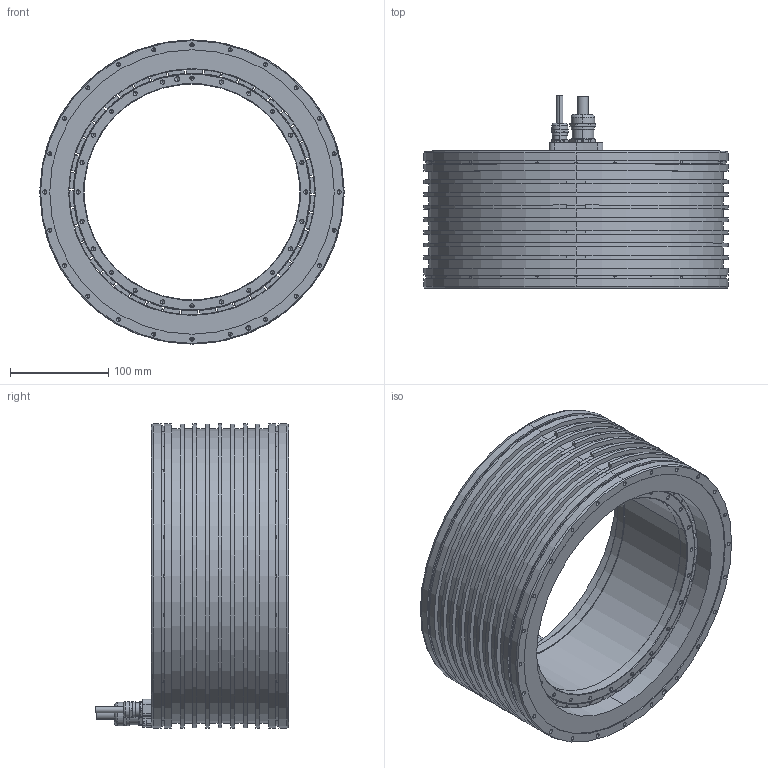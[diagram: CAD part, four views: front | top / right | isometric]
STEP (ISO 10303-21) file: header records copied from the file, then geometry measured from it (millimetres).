
FILE_DESCRIPTION (( 'STEP AP214' ), '1' );
FILE_NAME ('TORQUE KIT QMT LA 310-140-I-AX.STEP', '2025-09-04T13:29:29', ( '' ), ( '' ), 'SwSTEP 2.0', 'SolidWorks 2023', '' );
FILE_SCHEMA (( 'AUTOMOTIVE_DESIGN' ));
Length unit declared in the file: millimetre
Products named in the file (21): Cooling Ring; Housing; TORQUE KIT QMT LA 310-140-I-AX; Magnet; Screw; Cable Clamp; Resin; Cable Connection; Stator; Rotor_Glued; Cable Gland; Housing-BO; Rotor; Rotor ring; Cable
Assembly tree (103 placements, depth 6):
  TORQUE KIT QMT LA 310-140-I-AX
    Stator
      Stator
        Housing
          Housing-BO
            Cooling Ring
        Resin
        Cable Connection
          Cable Connection
          Cable
          Cable
      Cable Clamp
        Cable Clamp
        Cable Gland
        Cable Gland
      Screw  x2
    Rotor
      Rotor_Glued
        Rotor ring
        Magnet  x42
        Magnet  x42
Bounding box: 310 x 197.1 x 310 mm (x, y, z)
Volume: 4251527.8 mm3; surface area: 1013146.2 mm2
Topology: 95 solids, 95 shells, 3636 faces, 8332 edges, 4493 vertices
Faces by surface type: cylinder 1572, sphere 840, plane 558, torus 360, cone 306
Entity records: 40396 total; most frequent: DIRECTION 5824, CARTESIAN_POINT 5673, ORIENTED_EDGE 4784, EDGE_CURVE 2392, AXIS2_PLACEMENT_3D 2379, VERTEX_POINT 1500, EDGE_LOOP 1250, CIRCLE 1198
